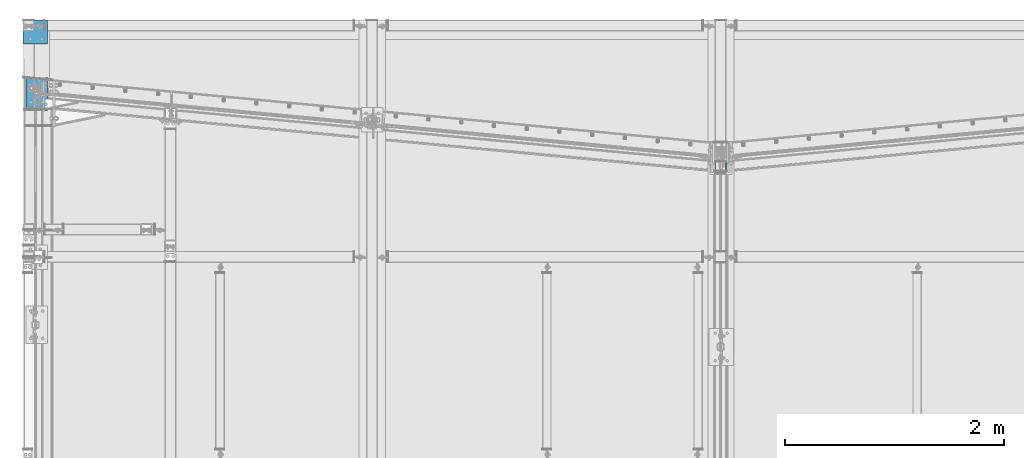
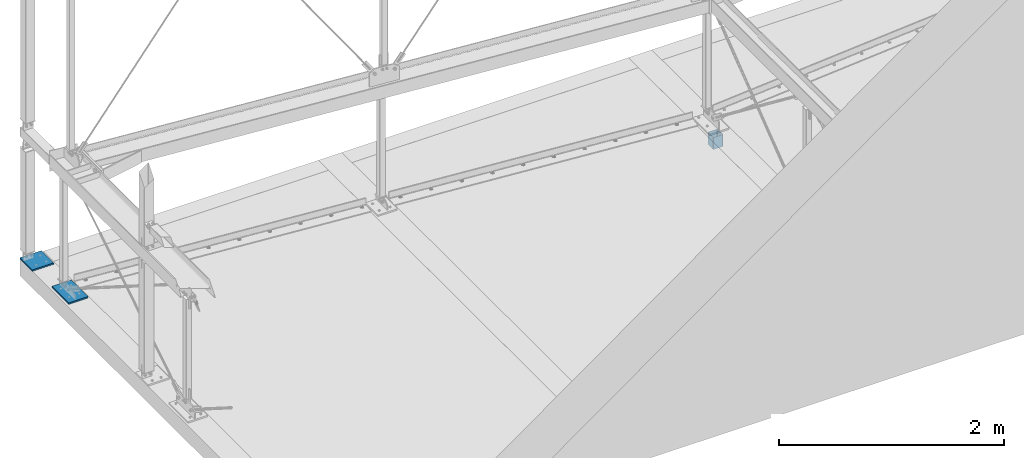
# One storey, part 74 of 271: 3 beams, 3 elements without a shape of their own.
"""IFC2X3 building model written with IfcOpenShell, lengths in millimetres."""

import ifcopenshell
import ifcopenshell.guid

model = None  # the IFC model being written
_history = None  # IfcOwnerHistory: only IFC2X3 demands one
_inside = {}  # id of a spatial element -> (the spatial element, [elements in it])
_under = {}  # id of a project, library or spatial element -> (it, [spatial elements below it])
_declared = {}  # id of a project -> (the project, [libraries it declares])
_typed = {}  # id of a type object -> (the type object, [elements of that type])
_made_of = {}  # id of a material, layer set ... -> (it, [elements and type objects made of it])


def new_model(schema):
    """Start an empty IFC model of exactly this schema.

    Asked for "IFC4X3", IfcOpenShell would pick the latest addendum, in which some entities
    have other attributes; the version numbers below select the first issue.
    IFC2X3 requires an IfcOwnerHistory on every rooted entity: one is made here for all.
    """
    global model, _history
    if schema == "IFC4X3":
        model = ifcopenshell.file(schema_version=(4, 3, 0, 0))
    else:
        model = ifcopenshell.file(schema=schema)
    _inside.clear()
    _under.clear()
    _declared.clear()
    _typed.clear()
    _made_of.clear()
    _history = None
    if model.schema == "IFC2X3":
        org = make("IfcOrganization", Name="unknown")
        user = make(
            "IfcPersonAndOrganization",
            ThePerson=make("IfcPerson", FamilyName="unknown"),
            TheOrganization=org,
        )
        app = make(
            "IfcApplication",
            ApplicationDeveloper=org,
            Version="unknown",
            ApplicationFullName="unknown",
            ApplicationIdentifier="unknown",
        )
        _history = make(
            "IfcOwnerHistory",
            OwningUser=user,
            OwningApplication=app,
            ChangeAction="ADDED",
            CreationDate=0,
        )
    return model


def make(cls, **values):
    """One entity of the class cls with the attributes given. An attribute that is None is left unset."""
    return model.create_entity(
        cls, **{name: value for name, value in values.items() if value is not None}
    )


def rooted(cls, **values):
    """An entity with a GlobalId (a new one), such as an element, a storey or a relation."""
    return make(cls, GlobalId=ifcopenshell.guid.new(), OwnerHistory=_history, **values)


def si_unit(unit_type, name, prefix=None):
    """IfcSIUnit, for example si_unit("LENGTHUNIT", "METRE", prefix="MILLI")."""
    return make("IfcSIUnit", UnitType=unit_type, Prefix=prefix, Name=name)


def assignment(units):
    """IfcUnitAssignment: the units of a project."""
    return None if units is None else make("IfcUnitAssignment", Units=units)


def point(xyz):
    """IfcCartesianPoint."""
    return None if xyz is None else make("IfcCartesianPoint", Coordinates=xyz)


def direction(xyz):
    """IfcDirection."""
    return None if xyz is None else make("IfcDirection", DirectionRatios=xyz)


def frame(location, z_axis=None, x_axis=None):
    """IfcAxis2Placement3D, a coordinate frame: its origin and axes. An axis left out is left unset."""
    return make(
        "IfcAxis2Placement3D",
        Location=point(location),
        Axis=direction(z_axis),
        RefDirection=direction(x_axis),
    )


def frame_2d(location, x_axis=None):
    """IfcAxis2Placement2D, a coordinate frame in the plane: its origin and x axis."""
    return make(
        "IfcAxis2Placement2D", Location=point(location), RefDirection=direction(x_axis)
    )


def origin_with_axes():
    """The frame at (0, 0, 0) with the z axis (0, 0, 1) and the x axis (1, 0, 0) written out."""
    return frame((0.0, 0.0, 0.0), z_axis=(0.0, 0.0, 1.0), x_axis=(1.0, 0.0, 0.0))


def origin_2d_with_axis():
    """The frame at (0, 0) in the plane with the x axis (1, 0) written out."""
    return frame_2d((0.0, 0.0), x_axis=(1.0, 0.0))


def place(relative_to, where):
    """IfcLocalPlacement: puts the frame where relative to a parent placement (None: the world)."""
    return make(
        "IfcLocalPlacement", PlacementRelTo=relative_to, RelativePlacement=where
    )


def context(
    kind, dimensions, precision=None, world=None, true_north=None, identifier=None
):
    """IfcGeometricRepresentationContext, for example the 3D "Model" context."""
    return make(
        "IfcGeometricRepresentationContext",
        ContextIdentifier=identifier,
        ContextType=kind,
        CoordinateSpaceDimension=dimensions,
        Precision=precision,
        WorldCoordinateSystem=world,
        TrueNorth=true_north,
    )


def subcontext(parent, identifier, kind, view, scale=None):
    """IfcGeometricRepresentationSubContext, for example "Body" below "Model"."""
    return make(
        "IfcGeometricRepresentationSubContext",
        ContextIdentifier=identifier,
        ContextType=kind,
        ParentContext=parent,
        TargetScale=scale,
        TargetView=view,
    )


def project(units=None, contexts=None):
    """IfcProject with its units and contexts."""
    return rooted(
        "IfcProject",
        Name="project",
        RepresentationContexts=contexts,
        UnitsInContext=assignment(units),
    )


def spatial(cls, under=None, at=None, **own):
    """A site, building, storey or space (cls), placed at a placement, below another one or the project."""
    s = rooted(cls, ObjectPlacement=at, **own)
    if under is not None:
        _under.setdefault(under.id(), (under, []))[1].append(s)
    return s


def profile(cls, at=None, kind="AREA", **sizes):
    """A parametric profile (cls). Its sizes go by their IFC names, for example OverallWidth=200.0."""
    return make(cls, ProfileType=kind, Position=at, **sizes)


def rectangle(**sizes):
    """IfcRectangleProfileDef."""
    return profile("IfcRectangleProfileDef", **sizes)


def hollow_rectangle(**sizes):
    """IfcRectangleHollowProfileDef."""
    return profile("IfcRectangleHollowProfileDef", **sizes)


def extrude(swept, where, along, depth):
    """IfcExtrudedAreaSolid: the profile swept, set in the frame where, extruded along a direction by depth."""
    return make(
        "IfcExtrudedAreaSolid",
        SweptArea=swept,
        Position=where,
        ExtrudedDirection=direction(along),
        Depth=depth,
    )


def clip(a, b, op="DIFFERENCE"):
    """IfcBooleanClippingResult: the solid a cut by the half space b."""
    return make(
        "IfcBooleanClippingResult", Operator=op, FirstOperand=a, SecondOperand=b
    )


def halfspace(plane, agree):
    """IfcHalfSpaceSolid: all space on one side of the plane z = 0 of the frame plane."""
    return make(
        "IfcHalfSpaceSolid",
        BaseSurface=make("IfcPlane", Position=plane),
        AgreementFlag=agree,
    )


def shape(context_of_items, identifier, shape_type, items):
    """IfcShapeRepresentation: the items that make up one representation, for example the "Body"."""
    return make(
        "IfcShapeRepresentation",
        ContextOfItems=context_of_items,
        RepresentationIdentifier=identifier,
        RepresentationType=shape_type,
        Items=items,
    )


def material(Name=None, Category=None):
    """IfcMaterial."""
    return make("IfcMaterial", Name=Name, Category=Category)


def made_of(thing, what):
    """Note that an element or type object is made of a material, layer set ...; save() writes the relation."""
    if what is not None:
        _made_of.setdefault(what.id(), (what, []))[1].append(thing)
    return thing


def type_object(cls, material=None, **own):
    """A type object (cls), such as IfcWallType, which elements share."""
    return made_of(rooted(cls, **own), material)


def element(
    cls,
    number,
    at=None,
    inside=None,
    cuts=None,
    type_object=None,
    material=None,
    context=None,
    identifier="Body",
    shape_type=None,
    held_by="IfcProductDefinitionShape",
    body=None,
    shapes=None,
    **own,
):
    """One element of the class cls, such as IfcWall. Its Tag is "e" and its number.

    at: its placement. inside: the storey or other place that contains it. cuts: it is an
    opening in that element (IfcRelVoidsElement). A single representation is given by context,
    identifier, shape_type and body (its items); several are given by shapes. held_by: the class
    of the entity that holds the representations. save() writes the other relations.
    """
    e = rooted(cls, Tag="e%d" % number, ObjectPlacement=at, **own)
    if body is not None:
        shapes = [shape(context, identifier, shape_type, body)]
    if shapes is not None:
        e.Representation = make(held_by, Representations=shapes)
    if inside is not None:
        _inside.setdefault(inside.id(), (inside, []))[1].append(e)
    if cuts is not None:
        rooted(
            "IfcRelVoidsElement", RelatingBuildingElement=cuts, RelatedOpeningElement=e
        )
    if type_object is not None:
        _typed.setdefault(type_object.id(), (type_object, []))[1].append(e)
    return made_of(e, material)


def aggregate(whole, parts):
    """IfcRelAggregates: a whole, such as a stair, and the parts it consists of."""
    return rooted("IfcRelAggregates", RelatingObject=whole, RelatedObjects=parts)


def save(model, path):
    """Write the relations noted so far, then the file.

    IfcRelAggregates (storeys below a building ...), IfcRelContainedInSpatialStructure (elements
    in a storey), IfcRelDefinesByType, IfcRelAssociatesMaterial and IfcRelDeclares: one each for
    every whole, place, type object, material and project.
    """
    for whole, parts in _under.values():
        aggregate(whole, parts)
    for where, things in _inside.values():
        rooted(
            "IfcRelContainedInSpatialStructure",
            RelatedElements=things,
            RelatingStructure=where,
        )
    for kind, things in _typed.values():
        rooted("IfcRelDefinesByType", RelatedObjects=things, RelatingType=kind)
    for what, things in _made_of.values():
        rooted("IfcRelAssociatesMaterial", RelatedObjects=things, RelatingMaterial=what)
    for by, libraries in _declared.values():
        rooted("IfcRelDeclares", RelatingContext=by, RelatedDefinitions=libraries)
    model.write(path)


model = new_model("IFC2X3")

# Units and contexts
model_context = context("Model", 3, precision=1e-05, world=origin_with_axes())
body_context = subcontext(model_context, "Body", "Model", "MODEL_VIEW")
ifc_project = project(units=[si_unit("LENGTHUNIT", "METRE", prefix="MILLI"), si_unit("AREAUNIT", "SQUARE_METRE"), si_unit("VOLUMEUNIT", "CUBIC_METRE"), si_unit("MASSUNIT", "GRAM", prefix="KILO"), si_unit("TIMEUNIT", "SECOND"), si_unit("PLANEANGLEUNIT", "RADIAN"), si_unit("SOLIDANGLEUNIT", "STERADIAN"), si_unit("THERMODYNAMICTEMPERATUREUNIT", "DEGREE_CELSIUS"), si_unit("LUMINOUSINTENSITYUNIT", "LUMEN")], contexts=[model_context])

# Site, building, storey
site_placement = place(None, origin_with_axes())
site = spatial("IfcSite", under=ifc_project, at=site_placement, Name="Undefined", CompositionType="ELEMENT")
building_placement = place(site_placement, origin_with_axes())
building = spatial("IfcBuilding", under=site, at=building_placement, Name="Undefined", CompositionType="ELEMENT")
storey_placement = place(building_placement, origin_with_axes())
storey = spatial("IfcBuildingStorey", under=building, at=storey_placement, Name="Undefined", CompositionType="ELEMENT", Elevation=0.0)

# Assembly, beam
assembly_1_placement = place(storey_placement, origin_with_axes())
assembly_1 = element("IfcElementAssembly", 1, at=assembly_1_placement, inside=storey, Name="BELKA", AssemblyPlace="NOTDEFINED", PredefinedType="RIGID_FRAME")
ifc_material = material(Name="STEEL/S355JR")
beam_type_1 = type_object("IfcBeamType", Name="PL220*16", PredefinedType="NOTDEFINED")
beam_1_placement = place(assembly_1_placement, frame((-12.0, 4849.0, -8.0), z_axis=(0.0, -1.0, 0.0), x_axis=(1.0, 0.0, 0.0)))
beam_1 = element("IfcBeam", 2, at=beam_1_placement, type_object=beam_type_1, material=ifc_material, Name="BELKA", ObjectType="PL220*16", context=body_context, shape_type="SweptSolid", body=[
    extrude(rectangle(XDim=16.0, YDim=220.0, at=origin_2d_with_axis()), frame((220.0, 0.0, 0.0), z_axis=(-1.0, 0.0, 1.38777878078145e-17), x_axis=(0.0, -1.0, 0.0)), (0.0, 0.0, 1.0), 220.0),
])
aggregate(assembly_1, [beam_1])

assembly_2_placement = place(storey_placement, origin_with_axes())
assembly_2 = element("IfcElementAssembly", 3, at=assembly_2_placement, inside=storey, Name="BELKA", AssemblyPlace="NOTDEFINED", PredefinedType="RIGID_FRAME")
beam_type_2 = type_object("IfcBeamType", Name="PL300*16", PredefinedType="NOTDEFINED")
beam_2_placement = place(assembly_2_placement, frame((11.0, 4284.0, -8.0), z_axis=(0.0, -1.0, 0.0), x_axis=(1.0, 0.0, 0.0)))
beam_2 = element("IfcBeam", 4, at=beam_2_placement, type_object=beam_type_2, material=ifc_material, Name="BELKA", ObjectType="PL300*16", context=body_context, shape_type="SweptSolid", body=[
    extrude(rectangle(XDim=16.0, YDim=300.0, at=origin_2d_with_axis()), frame((200.0, 0.0, 0.0), z_axis=(-1.0, 0.0, 1.38777878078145e-17), x_axis=(0.0, -1.0, 0.0)), (0.0, 0.0, 1.0), 200.0),
])
aggregate(assembly_2, [beam_2])

assembly_3_placement = place(storey_placement, origin_with_axes())
assembly_3 = element("IfcElementAssembly", 5, at=assembly_3_placement, inside=storey, AssemblyPlace="NOTDEFINED", PredefinedType="RIGID_FRAME")
beam_type_3 = type_object("IfcBeamType", Name="SHS100*3", PredefinedType="NOTDEFINED")
beam_3_placement = place(assembly_3_placement, frame((6348.37568736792, 3614.92439872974, -195.650000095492), z_axis=(0.0, 1.0, 0.0), x_axis=(0.0, 0.0, 1.0)))
beam_3 = element("IfcBeam", 6, at=beam_3_placement, type_object=beam_type_3, material=ifc_material, Name="TĘŻNIK", ObjectType="SHS100*3", context=body_context, shape_type="Clipping", body=[
    clip(extrude(hollow_rectangle(XDim=100.0, YDim=100.0, WallThickness=3.0, InnerFilletRadius=3.0, OuterFilletRadius=6.0, at=origin_2d_with_axis()), frame((132.0, 0.0, 0.0), z_axis=(-1.0, 0.0, 1.38777878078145e-17), x_axis=(0.0, -1.0, 0.0)), (0.0, 0.0, 1.0), 132.0), halfspace(frame((4.0, 0.0, -50.0), z_axis=(1.0, 0.0, 0.0), x_axis=(0.0, -1.0, 0.0)), True)),
])
aggregate(assembly_3, [beam_3])

save(model, "model.ifc")
